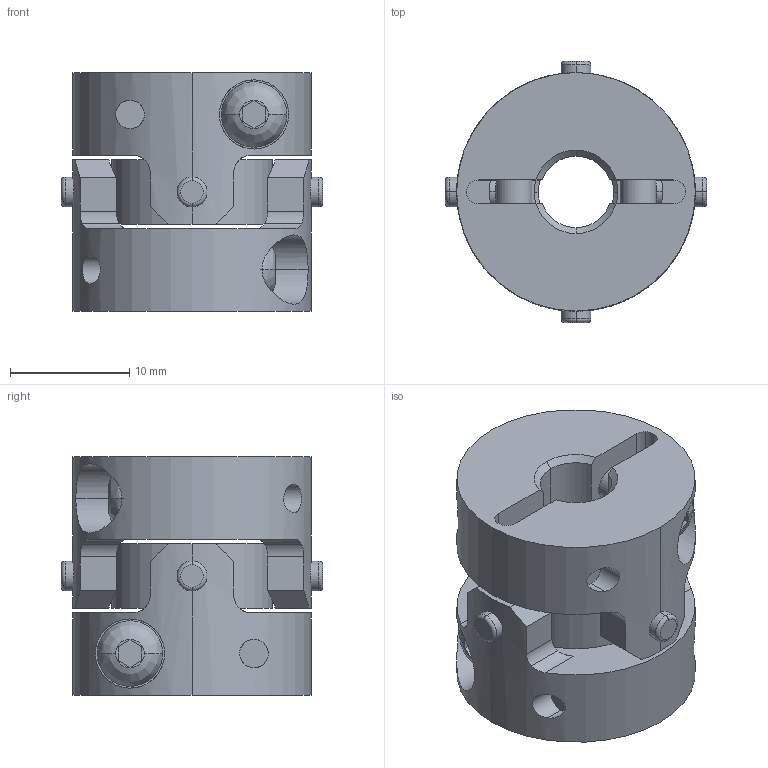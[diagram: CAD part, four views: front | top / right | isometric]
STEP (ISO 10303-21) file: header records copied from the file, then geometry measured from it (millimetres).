
FILE_DESCRIPTION((''),'2;1');
FILE_NAME('UA-20C-6×6.35.stp','2013-11-12T14:10:24',(''),(''),'AutoCAD STEP 2000i','AutoCAD 2000i',', , ');
FILE_SCHEMA(('CONFIG_CONTROL_DESIGN'));
Length unit declared in the file: millimetre
Products named in the file (6): UA-20C-4×4; 忣兜1; UA-2002-D04-1; BTN-M3; UA-2002-D04; UA20-SEN
Assembly tree (6 placements, depth 3):
  UA-20C-4×4
    忣兜1
    UA-2002-D04-1
      BTN-M3
    UA-2002-D04
      BTN-M3
    UA20-SEN
Bounding box: 21.89 x 21.89 x 20 mm (x, y, z)
Volume: 4425.5 mm3; surface area: 3853.6 mm2
Topology: 1 solids, 1 shells, 206 faces, 554 edges, 364 vertices
Faces by surface type: cylinder 96, plane 78, cone 16, bspline 8, torus 8
Entity records: 8011 total; most frequent: CARTESIAN_POINT 2695, ORIENTED_EDGE 1108, DIRECTION 1064, EDGE_CURVE 554, AXIS2_PLACEMENT_3D 409, VERTEX_POINT 364, VECTOR 246, LINE 246
